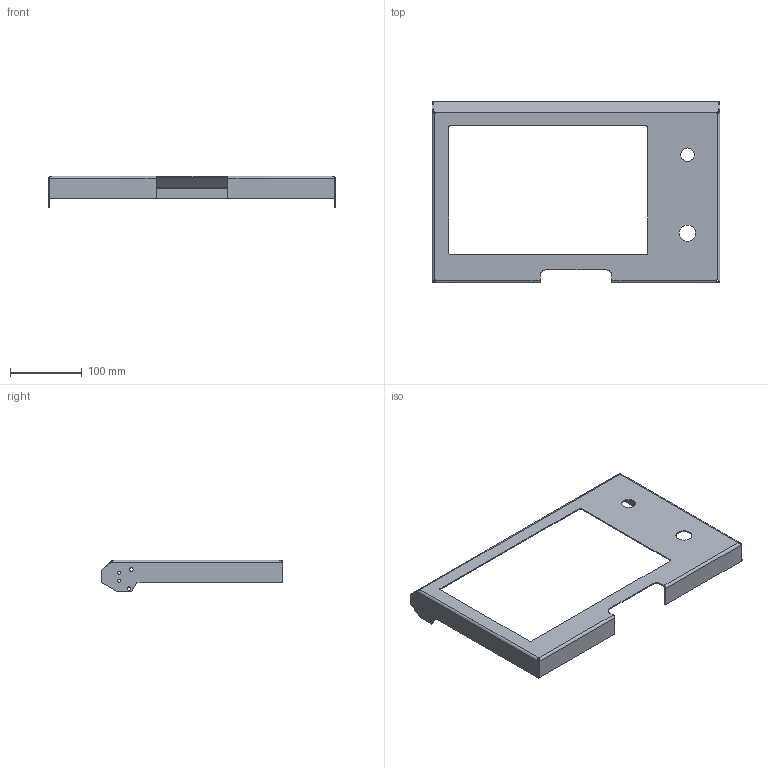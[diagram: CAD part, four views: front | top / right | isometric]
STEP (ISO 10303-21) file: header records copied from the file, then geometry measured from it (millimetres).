
FILE_DESCRIPTION (( 'STEP AP203' ), '1' );
FILE_NAME ('ORW-72.24.20.005 眈翴錪.STEP', '2025-10-13T13:18:10', ( '燴僽樥' ), ( '' ), 'SwSTEP 2.0', 'SolidWorks 2025', '' );
FILE_SCHEMA (( 'CONFIG_CONTROL_DESIGN' ));
Length unit declared in the file: millimetre
Products named in the file (1): ORW-72.24.20.005 Панель
Bounding box: 400 x 253.02 x 44 mm (x, y, z)
Volume: 120864.3 mm3; surface area: 165442.9 mm2
Topology: 1 solids, 1 shells, 108 faces, 282 edges, 176 vertices
Faces by surface type: plane 56, cylinder 36, bspline 16
Full cylindrical faces by diameter (mm): 4.3 x4, 5 x4, 19 x1, 22.5 x1
Entity records: 3559 total; most frequent: CARTESIAN_POINT 997, ORIENTED_EDGE 536, DIRECTION 446, EDGE_CURVE 268, VERTEX_POINT 172, AXIS2_PLACEMENT_3D 149, LINE 148, VECTOR 148
